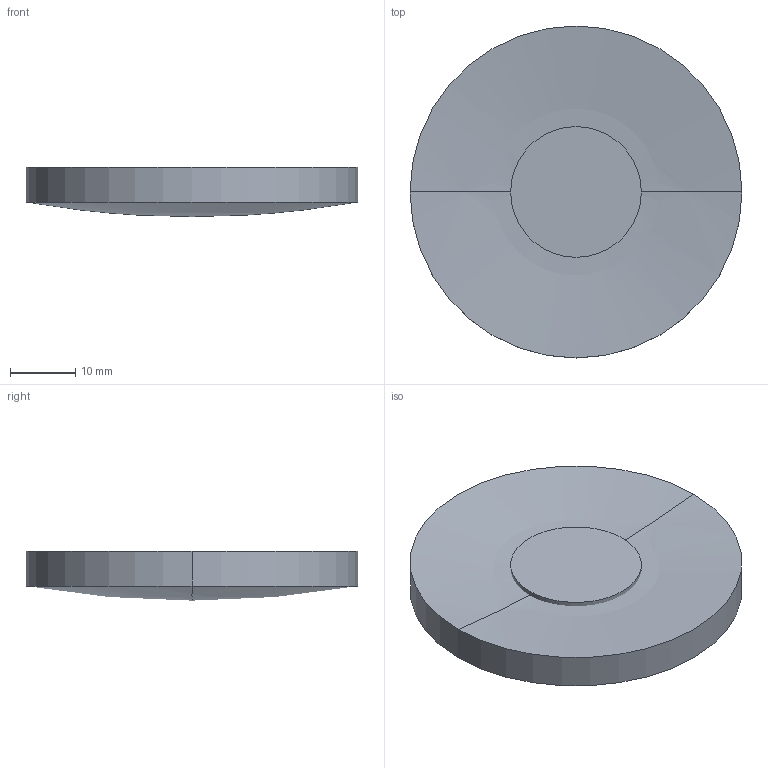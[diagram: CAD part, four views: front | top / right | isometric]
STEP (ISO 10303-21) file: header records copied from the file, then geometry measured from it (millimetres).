
FILE_DESCRIPTION(('STEP AP214'),'1');
FILE_NAME('LLG-51150.STEP','2020-03-09T17:41:40',(' '),(' '),'Spatial InterOp 3D',' ',' ');
FILE_SCHEMA(('AUTOMOTIVE_DESIGN { 1 0 10303 214 1 1 1 1 }'));
Length unit declared in the file: millimetre
Products named in the file (1): 1
Bounding box: 50.8 x 50.8 x 7.54 mm (x, y, z)
Volume: 11788.3 mm3; surface area: 5616.6 mm2
Topology: 2 solids, 2 shells, 10 faces, 20 edges, 10 vertices
Faces by surface type: cylinder 4, sphere 4, plane 2
Entity records: 255 total; most frequent: DIRECTION 52, CARTESIAN_POINT 38, ORIENTED_EDGE 32, AXIS2_PLACEMENT_3D 24, EDGE_CURVE 16, CIRCLE 12, ADVANCED_FACE 10, FACE_OUTER_BOUND 10
